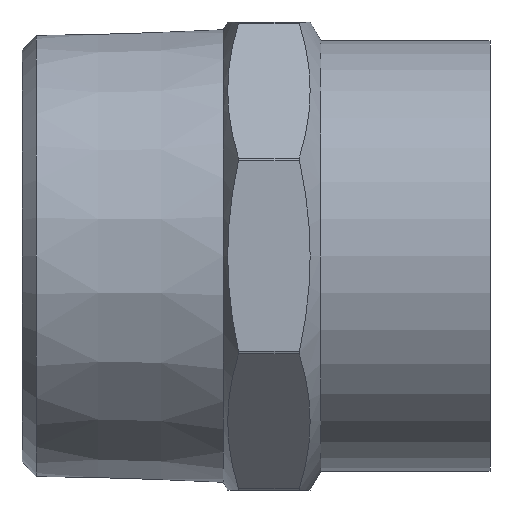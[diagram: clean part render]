
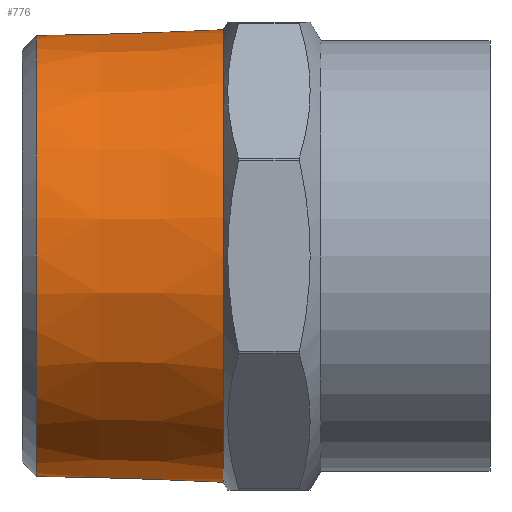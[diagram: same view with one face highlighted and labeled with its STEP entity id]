
A CAD part, front view. The second image highlights one B-rep face of the part: STEP entity #776.
In plain terms, the highlighted conical face has half-angle 1.79 degrees and reference radius 23.841 mm.
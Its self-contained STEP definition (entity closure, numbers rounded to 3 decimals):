
#725=CARTESIAN_POINT('',(1.499,23.552,0.));
#726=VERTEX_POINT('',#725);
#727=CARTESIAN_POINT('',(1.499,0.0,0.));
#728=DIRECTION('',(-1.0,0.0,0.0));
#729=DIRECTION('',(0.0,-1.0,0.0));
#730=AXIS2_PLACEMENT_3D('',#727,#728,#729);
#731=CIRCLE('',#730,23.552);
#732=EDGE_CURVE('',#726,#726,#731,.T.);
#757=CARTESIAN_POINT('',(10.75,0.0,0.0));
#758=DIRECTION('',(1.0,0.0,0.0));
#759=DIRECTION('',(0.0,1.0,0.0));
#760=AXIS2_PLACEMENT_3D('',#757,#758,#759);
#761=CONICAL_SURFACE('',#760,23.841,1.79);
#762=CARTESIAN_POINT('',(21.5,24.177,0.0));
#763=VERTEX_POINT('',#762);
#764=CARTESIAN_POINT('',(21.5,0.0,0.0));
#765=DIRECTION('',(1.0,0.0,0.0));
#766=DIRECTION('',(0.0,1.0,0.0));
#767=AXIS2_PLACEMENT_3D('',#764,#765,#766);
#768=CIRCLE('',#767,24.177);
#769=EDGE_CURVE('',#763,#763,#768,.T.);
#770=ORIENTED_EDGE('',*,*,#769,.F.);
#771=EDGE_LOOP('',(#770));
#772=FACE_OUTER_BOUND('',#771,.T.);
#773=ORIENTED_EDGE('',*,*,#732,.F.);
#774=EDGE_LOOP('',(#773));
#775=FACE_BOUND('',#774,.T.);
#776=ADVANCED_FACE('',(#772,#775),#761,.T.);
